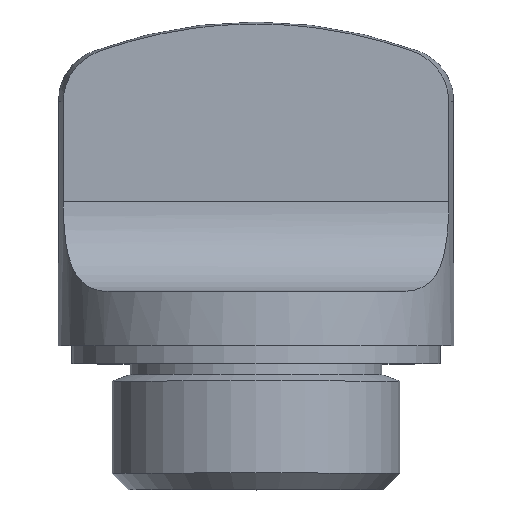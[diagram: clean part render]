
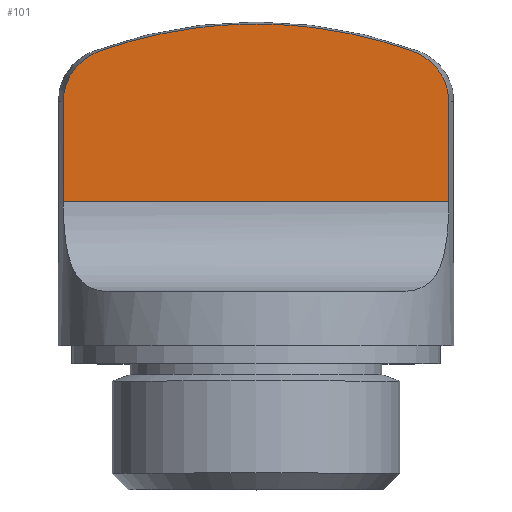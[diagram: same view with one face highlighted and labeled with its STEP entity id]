
A CAD part, top view. The second image highlights one B-rep face of the part: STEP entity #101.
In plain terms, the highlighted planar face has unit normal (0, 0, 1).
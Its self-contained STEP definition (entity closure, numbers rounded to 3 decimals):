
#101 = ADVANCED_FACE( '', ( #176 ), #177, .T. );
#176 = FACE_OUTER_BOUND( '', #255, .T. );
#177 = PLANE( '', #256 );
#255 = EDGE_LOOP( '', ( #408, #409, #410, #411, #412, #413 ) );
#256 = AXIS2_PLACEMENT_3D( '', #414, #415, #416 );
#408 = ORIENTED_EDGE( '', *, *, #480, .T. );
#409 = ORIENTED_EDGE( '', *, *, #468, .F. );
#410 = ORIENTED_EDGE( '', *, *, #481, .T. );
#411 = ORIENTED_EDGE( '', *, *, #477, .F. );
#412 = ORIENTED_EDGE( '', *, *, #479, .F. );
#413 = ORIENTED_EDGE( '', *, *, #459, .F. );
#414 = CARTESIAN_POINT( '', ( 22., 16., 2.5 ) );
#415 = DIRECTION( '', ( 0., 0., 1. ) );
#416 = DIRECTION( '', ( 1., 0., 0. ) );
#459 = EDGE_CURVE( '', #520, #522, #523, .T. );
#468 = EDGE_CURVE( '', #537, #539, #540, .T. );
#477 = EDGE_CURVE( '', #553, #551, #555, .T. );
#479 = EDGE_CURVE( '', #522, #553, #556, .F. );
#480 = EDGE_CURVE( '', #520, #539, #557, .T. );
#481 = EDGE_CURVE( '', #537, #551, #558, .F. );
#520 = VERTEX_POINT( '', #656 );
#522 = VERTEX_POINT( '', #658 );
#523 = B_SPLINE_CURVE_WITH_KNOTS( '', 3, ( #659, #660, #661, #662, #663, #664, #665, #666, #667, #668, #669, #670 ), .UNSPECIFIED., .F., .F., ( 4, 2, 2, 2, 2, 4 ), ( 0.017, 0.018, 0.019, 0.02, 0.021, 0.021 ), .UNSPECIFIED. );
#537 = VERTEX_POINT( '', #685 );
#539 = VERTEX_POINT( '', #704 );
#540 = LINE( '', #705, #706 );
#551 = VERTEX_POINT( '', #732 );
#553 = VERTEX_POINT( '', #734 );
#555 = B_SPLINE_CURVE_WITH_KNOTS( '', 3, ( #736, #737, #738, #739, #740, #741, #742, #743, #744, #745, #746, #747 ), .UNSPECIFIED., .F., .F., ( 4, 2, 2, 2, 2, 4 ), ( 0.005, 0.005, 0.006, 0.007, 0.008, 0.008 ), .UNSPECIFIED. );
#556 = CIRCLE( '', #748, 25.88 );
#557 = LINE( '', #749, #750 );
#558 = LINE( '', #751, #752 );
#656 = CARTESIAN_POINT( '', ( -10.712, 21.564, 2.5 ) );
#658 = CARTESIAN_POINT( '', ( -8.691, 24.377, 2.5 ) );
#659 = CARTESIAN_POINT( '', ( -10.712, 21.564, 2.5 ) );
#660 = CARTESIAN_POINT( '', ( -10.712, 21.87, 2.5 ) );
#661 = CARTESIAN_POINT( '', ( -10.663, 22.181, 2.5 ) );
#662 = CARTESIAN_POINT( '', ( -10.473, 22.763, 2.5 ) );
#663 = CARTESIAN_POINT( '', ( -10.33, 23.043, 2.5 ) );
#664 = CARTESIAN_POINT( '', ( -9.966, 23.544, 2.5 ) );
#665 = CARTESIAN_POINT( '', ( -9.749, 23.762, 2.5 ) );
#666 = CARTESIAN_POINT( '', ( -9.378, 24.036, 2.5 ) );
#667 = CARTESIAN_POINT( '', ( -9.246, 24.12, 2.5 ) );
#668 = CARTESIAN_POINT( '', ( -8.976, 24.263, 2.5 ) );
#669 = CARTESIAN_POINT( '', ( -8.836, 24.325, 2.5 ) );
#670 = CARTESIAN_POINT( '', ( -8.691, 24.377, 2.5 ) );
#685 = CARTESIAN_POINT( '', ( 10.712, 16., 2.5 ) );
#704 = CARTESIAN_POINT( '', ( -10.712, 16., 2.5 ) );
#705 = CARTESIAN_POINT( '', ( 22., 16., 2.5 ) );
#706 = VECTOR( '', #814, 1000. );
#732 = CARTESIAN_POINT( '', ( 10.712, 21.564, 2.5 ) );
#734 = CARTESIAN_POINT( '', ( 8.691, 24.377, 2.5 ) );
#736 = CARTESIAN_POINT( '', ( 8.691, 24.377, 2.5 ) );
#737 = CARTESIAN_POINT( '', ( 8.835, 24.325, 2.5 ) );
#738 = CARTESIAN_POINT( '', ( 8.975, 24.263, 2.5 ) );
#739 = CARTESIAN_POINT( '', ( 9.247, 24.119, 2.5 ) );
#740 = CARTESIAN_POINT( '', ( 9.379, 24.036, 2.5 ) );
#741 = CARTESIAN_POINT( '', ( 9.75, 23.761, 2.5 ) );
#742 = CARTESIAN_POINT( '', ( 9.968, 23.542, 2.5 ) );
#743 = CARTESIAN_POINT( '', ( 10.332, 23.04, 2.5 ) );
#744 = CARTESIAN_POINT( '', ( 10.471, 22.767, 2.5 ) );
#745 = CARTESIAN_POINT( '', ( 10.664, 22.177, 2.5 ) );
#746 = CARTESIAN_POINT( '', ( 10.712, 21.873, 2.5 ) );
#747 = CARTESIAN_POINT( '', ( 10.712, 21.564, 2.5 ) );
#748 = AXIS2_PLACEMENT_3D( '', #836, #837, #838 );
#749 = CARTESIAN_POINT( '', ( -10.712, 0., 2.5 ) );
#750 = VECTOR( '', #839, 1000. );
#751 = CARTESIAN_POINT( '', ( 10.712, 0., 2.5 ) );
#752 = VECTOR( '', #840, 1000. );
#814 = DIRECTION( '', ( -1., 0., 0. ) );
#836 = CARTESIAN_POINT( '', ( 0., 0., 2.5 ) );
#837 = DIRECTION( '', ( 0., 0., 1. ) );
#838 = DIRECTION( '', ( 1., 0., 0. ) );
#839 = DIRECTION( '', ( 0., -1., 0. ) );
#840 = DIRECTION( '', ( 0., -1., 0. ) );
